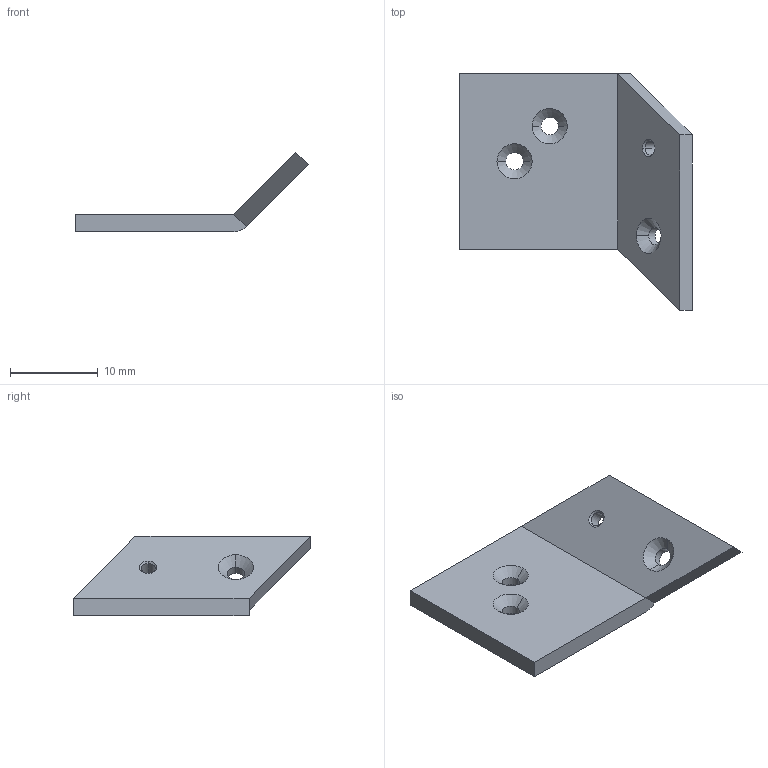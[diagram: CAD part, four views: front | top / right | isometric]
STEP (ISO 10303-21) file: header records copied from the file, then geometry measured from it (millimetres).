
FILE_DESCRIPTION (( 'STEP AP214' ), '1' );
FILE_NAME ('SC63.STEP', '2016-02-26T17:39:17', ( '' ), ( '' ), 'SwSTEP 2.0', 'SolidWorks 2012', '' );
FILE_SCHEMA (( 'AUTOMOTIVE_DESIGN' ));
Length unit declared in the file: millimetre
Products named in the file (1): SC63
Bounding box: 26.49 x 27 x 9.07 mm (x, y, z)
Volume: 1115.8 mm3; surface area: 1372.1 mm2
Topology: 1 solids, 1 shells, 29 faces, 67 edges, 40 vertices
Faces by surface type: cone 10, plane 10, cylinder 9
Entity records: 867 total; most frequent: DIRECTION 155, CARTESIAN_POINT 137, ORIENTED_EDGE 134, EDGE_CURVE 67, AXIS2_PLACEMENT_3D 58, VERTEX_POINT 40, LINE 39, VECTOR 39
